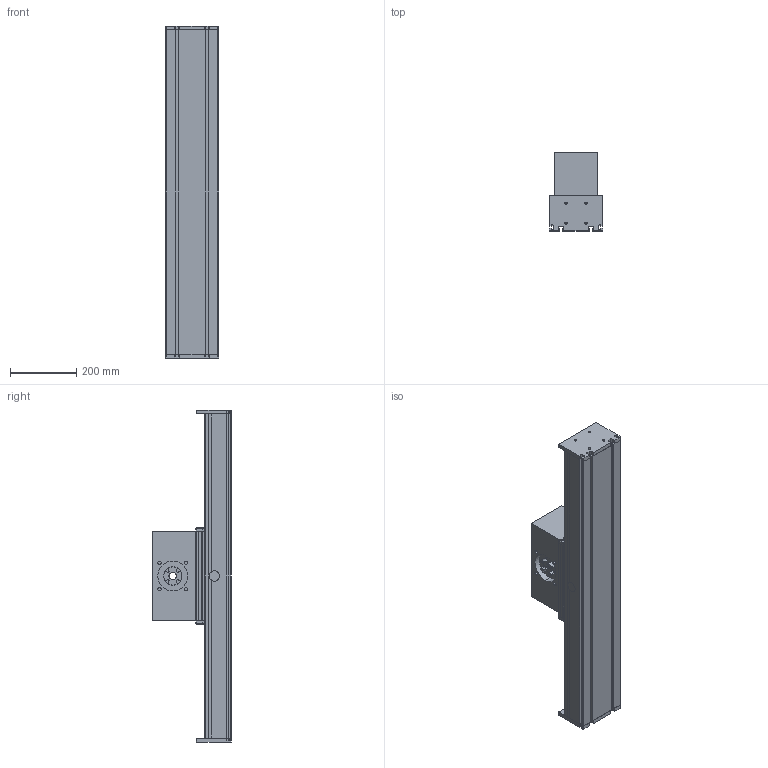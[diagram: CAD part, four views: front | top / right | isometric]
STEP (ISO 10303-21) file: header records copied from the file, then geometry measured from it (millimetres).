
FILE_DESCRIPTION (( 'STEP AP214' ), '1' );
FILE_NAME ('DLSZ160.STEP', '2023-09-12T11:49:31', ( '' ), ( '' ), 'SwSTEP 2.0', 'SolidWorks 2020', '' );
FILE_SCHEMA (( 'AUTOMOTIVE_DESIGN' ));
Length unit declared in the file: millimetre
Products named in the file (5): bearing block^DLSZ160_coupling claw pos.2; carriage^DLSZ160_carriage version 0; end plate^DLSZ160_standard; profile^DLSZ160_standard; DLSZ160
Assembly tree (5 placements, depth 2):
  DLSZ160
    profile^DLSZ160_standard
    carriage^DLSZ160_carriage version 0
    bearing block^DLSZ160_coupling claw pos.2
    end plate^DLSZ160_standard  x2
Bounding box: 160.2 x 236 x 1000 mm (x, y, z)
Volume: 12276562.8 mm3; surface area: 2022189.6 mm2
Topology: 9 solids, 9 shells, 431 faces, 1185 edges, 776 vertices
Faces by surface type: plane 289, cylinder 132, sphere 8, cone 2
Entity records: 13069 total; most frequent: CARTESIAN_POINT 2162, ORIENTED_EDGE 2114, DIRECTION 2085, EDGE_CURVE 1057, VECTOR 815, LINE 815, VERTEX_POINT 696, AXIS2_PLACEMENT_3D 635
